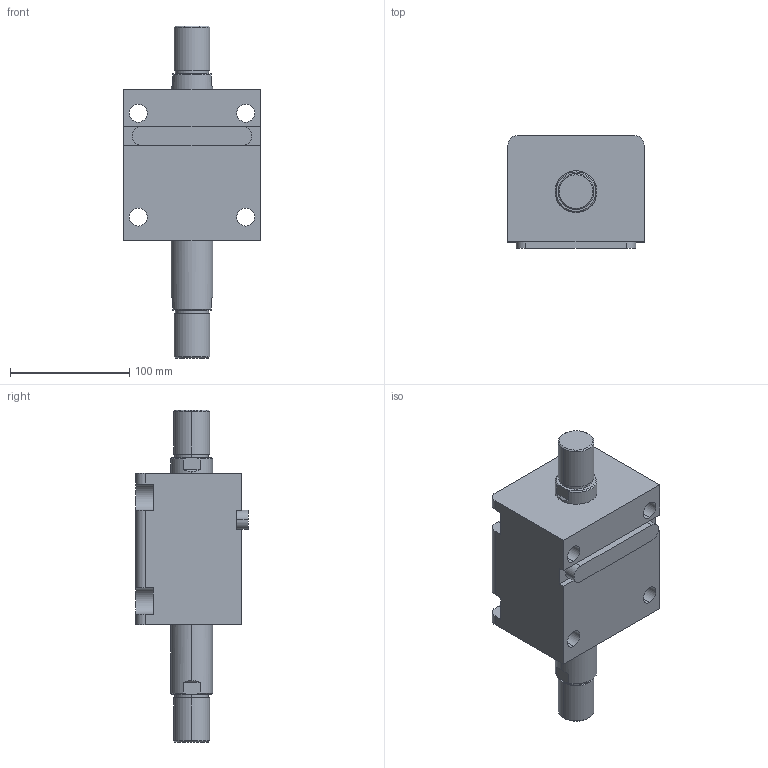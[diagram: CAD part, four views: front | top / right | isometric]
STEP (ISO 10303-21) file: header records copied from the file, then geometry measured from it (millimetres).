
FILE_DESCRIPTION (( 'STEP AP203' ), '1' );
FILE_NAME ('HTB-LW63-45W.STEP', '2019-10-09T08:26:33', ( '微软用户' ), ( '微软中国' ), 'SwSTEP 2.0', 'SolidWorks 2012', '' );
FILE_SCHEMA (( 'CONFIG_CONTROL_DESIGN' ));
Length unit declared in the file: millimetre
Products named in the file (4): HTB-LW63-45W; HTB-LA63-瑩; HTB-LW63-45W活塞杆; HTB-LW63-45掛极
Assembly tree (3 placements, depth 2):
  HTB-LW63-45W
    HTB-LW63-45掛极
    HTB-LW63-45W活塞杆
    HTB-LA63-瑩
Bounding box: 114 x 94.5 x 278 mm (x, y, z)
Volume: 1236817.3 mm3; surface area: 152225.9 mm2
Topology: 3 solids, 3 shells, 109 faces, 265 edges, 174 vertices
Faces by surface type: plane 48, cylinder 45, cone 12, torus 4
Entity records: 3679 total; most frequent: CARTESIAN_POINT 610, DIRECTION 593, ORIENTED_EDGE 530, EDGE_CURVE 265, AXIS2_PLACEMENT_3D 229, VERTEX_POINT 174, VECTOR 135, LINE 135
